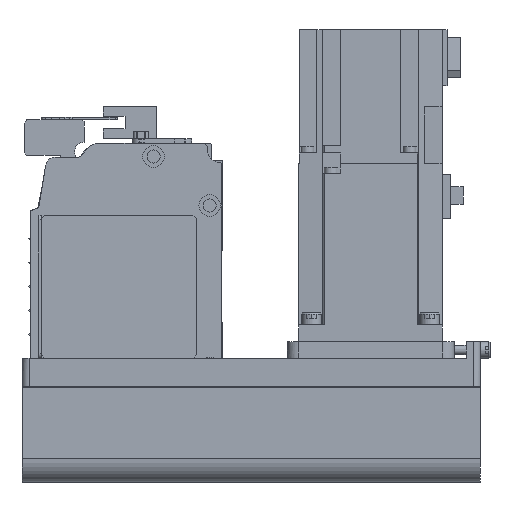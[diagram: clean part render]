
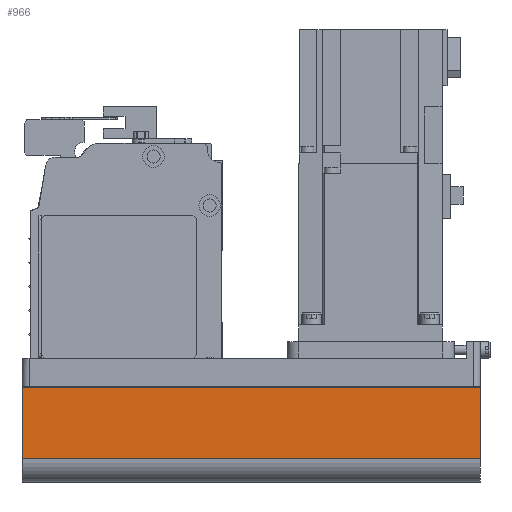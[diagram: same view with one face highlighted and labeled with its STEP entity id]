
A CAD part, left-side view. The second image highlights one B-rep face of the part: STEP entity #966.
In plain terms, the highlighted planar face has unit normal (-1, 0, 0) as drawn and (0, 1, 0) by its records, which use the part's own axes.
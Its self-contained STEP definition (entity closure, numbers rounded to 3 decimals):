
#966 = ADVANCED_FACE( '', ( #2524 ), #2525, .T. );
#2524 = FACE_OUTER_BOUND( '', #4916, .T. );
#2525 = PLANE( '', #4917 );
#4916 = EDGE_LOOP( '', ( #7578, #7579, #7580, #7581 ) );
#4917 = AXIS2_PLACEMENT_3D( '', #7582, #7583, #7584 );
#7578 = ORIENTED_EDGE( '', *, *, #13847, .F. );
#7579 = ORIENTED_EDGE( '', *, *, #13848, .F. );
#7580 = ORIENTED_EDGE( '', *, *, #13849, .T. );
#7581 = ORIENTED_EDGE( '', *, *, #13850, .T. );
#7582 = CARTESIAN_POINT( '', ( -192., 40., -42. ) );
#7583 = DIRECTION( '', ( 0., 1., 0. ) );
#7584 = DIRECTION( '', ( 0., 0., 1. ) );
#13847 = EDGE_CURVE( '', #16556, #16557, #16558, .T. );
#13848 = EDGE_CURVE( '', #16559, #16556, #16560, .T. );
#13849 = EDGE_CURVE( '', #16559, #16561, #16562, .T. );
#13850 = EDGE_CURVE( '', #16561, #16557, #16563, .T. );
#16556 = VERTEX_POINT( '', #20396 );
#16557 = VERTEX_POINT( '', #20397 );
#16558 = LINE( '', #20398, #20399 );
#16559 = VERTEX_POINT( '', #20400 );
#16560 = LINE( '', #20401, #20402 );
#16561 = VERTEX_POINT( '', #20403 );
#16562 = LINE( '', #20404, #20405 );
#16563 = LINE( '', #20406, #20407 );
#20396 = CARTESIAN_POINT( '', ( 0., 40., -42. ) );
#20397 = CARTESIAN_POINT( '', ( 0., 40., -12.1 ) );
#20398 = CARTESIAN_POINT( '', ( 0., 40., -42. ) );
#20399 = VECTOR( '', #24982, 1000. );
#20400 = CARTESIAN_POINT( '', ( -192., 40., -42. ) );
#20401 = CARTESIAN_POINT( '', ( -192., 40., -42. ) );
#20402 = VECTOR( '', #24983, 1000. );
#20403 = CARTESIAN_POINT( '', ( -192., 40., -12.1 ) );
#20404 = CARTESIAN_POINT( '', ( -192., 40., -42. ) );
#20405 = VECTOR( '', #24984, 1000. );
#20406 = CARTESIAN_POINT( '', ( -192., 40., -12.1 ) );
#20407 = VECTOR( '', #24985, 1000. );
#24982 = DIRECTION( '', ( 0., 0., 1. ) );
#24983 = DIRECTION( '', ( 1., 0., 0. ) );
#24984 = DIRECTION( '', ( 0., 0., 1. ) );
#24985 = DIRECTION( '', ( 1., 0., 0. ) );
